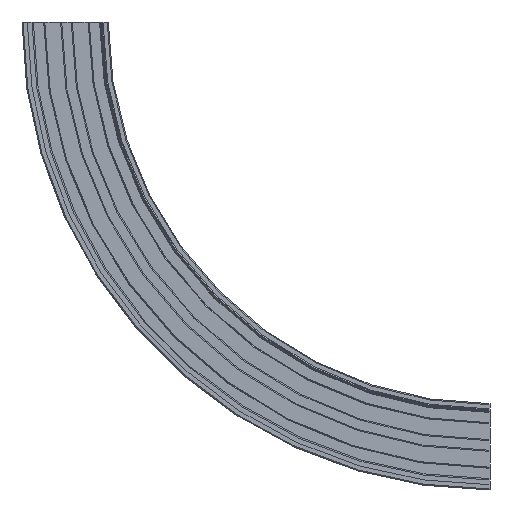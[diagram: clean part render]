
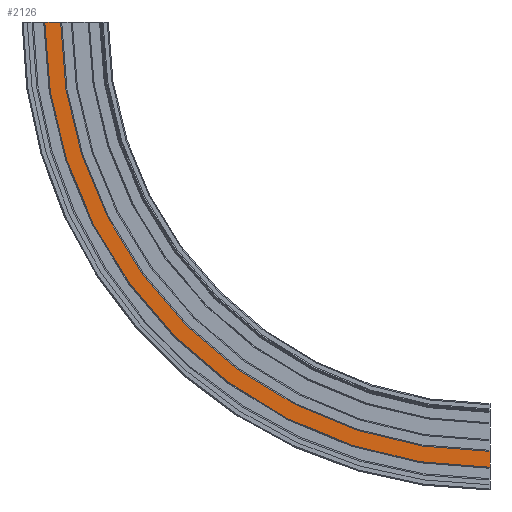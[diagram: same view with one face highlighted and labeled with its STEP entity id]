
A CAD part, left-side view. The second image highlights one B-rep face of the part: STEP entity #2126.
In plain terms, the highlighted planar face has unit normal (-1, 0, 0).
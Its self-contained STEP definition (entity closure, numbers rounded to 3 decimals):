
#214=CIRCLE('',#2314,405.5);
#215=CIRCLE('',#2316,420.5);
#325=FACE_OUTER_BOUND('',#443,.T.);
#443=EDGE_LOOP('',(#1725,#1726,#1727,#1728));
#593=LINE('',#8168,#771);
#594=LINE('',#8170,#772);
#771=VECTOR('',#2772,10.);
#772=VECTOR('',#2773,10.);
#983=VERTEX_POINT('',#8161);
#984=VERTEX_POINT('',#8163);
#985=VERTEX_POINT('',#8167);
#986=VERTEX_POINT('',#8169);
#1271=EDGE_CURVE('',#983,#984,#214,.T.);
#1272=EDGE_CURVE('',#985,#983,#593,.T.);
#1273=EDGE_CURVE('',#986,#984,#594,.T.);
#1274=EDGE_CURVE('',#985,#986,#215,.T.);
#1725=ORIENTED_EDGE('',*,*,#1272,.T.);
#1726=ORIENTED_EDGE('',*,*,#1271,.T.);
#1727=ORIENTED_EDGE('',*,*,#1273,.F.);
#1728=ORIENTED_EDGE('',*,*,#1274,.F.);
#2030=PLANE('',#2315);
#2126=ADVANCED_FACE('',(#325),#2030,.T.);
#2314=AXIS2_PLACEMENT_3D('',#8165,#2768,#2769);
#2315=AXIS2_PLACEMENT_3D('',#8166,#2770,#2771);
#2316=AXIS2_PLACEMENT_3D('',#8171,#2774,#2775);
#2768=DIRECTION('center_axis',(1.,0.,0.));
#2769=DIRECTION('ref_axis',(0.,0.,
-1.));
#2770=DIRECTION('center_axis',(-1.,0.,0.));
#2771=DIRECTION('ref_axis',(0.,0.,1.));
#2772=DIRECTION('',(0.,0.,1.));
#2773=DIRECTION('',(0.,-1.,0.));
#2774=DIRECTION('center_axis',(1.,0.,0.));
#2775=DIRECTION('ref_axis',(0.,0.,-1.));
#8161=CARTESIAN_POINT('',(-112.,0.,-5.5));
#8163=CARTESIAN_POINT('',(-112.,405.5,400.));
#8165=CARTESIAN_POINT('Origin',(-112.,0.,400.));
#8166=CARTESIAN_POINT('Origin',(-112.,0.,-20.5));
#8167=CARTESIAN_POINT('',(-112.,0.,-20.5));
#8168=CARTESIAN_POINT('',(-112.,0.,-20.5));
#8169=CARTESIAN_POINT('',(-112.,420.5,400.));
#8170=CARTESIAN_POINT('',(-112.,420.5,400.));
#8171=CARTESIAN_POINT('Origin',(-112.,0.,400.));
